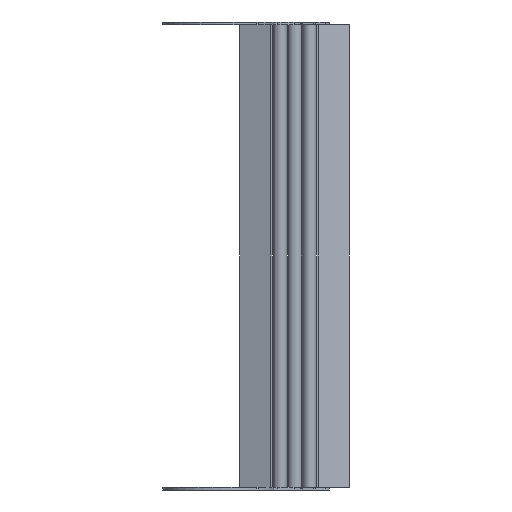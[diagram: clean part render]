
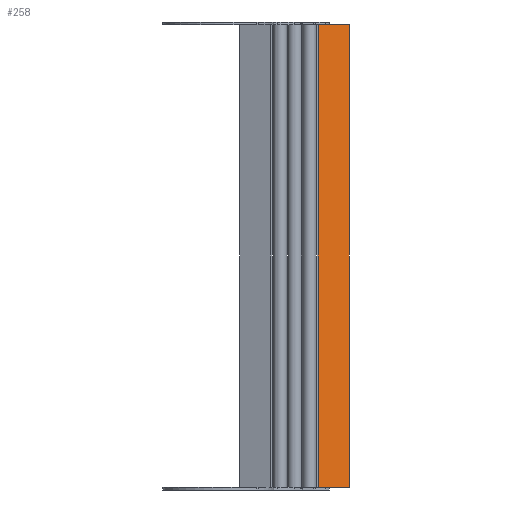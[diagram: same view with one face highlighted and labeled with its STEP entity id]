
A CAD part, front view. The second image highlights one B-rep face of the part: STEP entity #258.
In plain terms, the highlighted planar face has unit normal (0.342, -0.94, 0).
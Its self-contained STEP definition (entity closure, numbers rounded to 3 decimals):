
#194 = DIRECTION ( 'NONE',  ( 0., 0., 1. ) ) ;
#214 = CARTESIAN_POINT ( 'NONE',  ( 108.255, 61.65, -500. ) ) ;
#258 = ADVANCED_FACE ( 'NONE', ( #802 ), #4195, .F. ) ;
#279 = CARTESIAN_POINT ( 'NONE',  ( 108.255, 61.65, -500. ) ) ;
#401 = VERTEX_POINT ( 'NONE', #1510 ) ;
#627 = EDGE_CURVE ( 'NONE', #1920, #4659, #2587, .T. ) ;
#637 = VERTEX_POINT ( 'NONE', #4230 ) ;
#666 = ORIENTED_EDGE ( 'NONE', *, *, #2213, .T. ) ;
#675 = VECTOR ( 'NONE', #5586, 1000. ) ;
#802 = FACE_OUTER_BOUND ( 'NONE', #4464, .T. ) ;
#943 = VECTOR ( 'NONE', #194, 1000. ) ;
#1087 = LINE ( 'NONE', #2866, #3175 ) ;
#1490 = LINE ( 'NONE', #2370, #943 ) ;
#1510 = CARTESIAN_POINT ( 'NONE',  ( 114.569, 63.948, 0. ) ) ;
#1843 = DIRECTION ( 'NONE',  ( 0., 0., 1. ) ) ;
#1894 = DIRECTION ( 'NONE',  ( -0.94, -0.342, 0. ) ) ;
#1920 = VERTEX_POINT ( 'NONE', #5636 ) ;
#1966 = ORIENTED_EDGE ( 'NONE', *, *, #3036, .F. ) ;
#1976 = CARTESIAN_POINT ( 'NONE',  ( 108.255, 61.65, -500. ) ) ;
#2088 = CARTESIAN_POINT ( 'NONE',  ( 108.255, 61.65, -500. ) ) ;
#2191 = ORIENTED_EDGE ( 'NONE', *, *, #627, .F. ) ;
#2213 = EDGE_CURVE ( 'NONE', #2910, #401, #5341, .T. ) ;
#2370 = CARTESIAN_POINT ( 'NONE',  ( 141.6, 73.787, -500. ) ) ;
#2408 = VERTEX_POINT ( 'NONE', #1976 ) ;
#2531 = LINE ( 'NONE', #2707, #3134 ) ;
#2587 = LINE ( 'NONE', #279, #675 ) ;
#2695 = ORIENTED_EDGE ( 'NONE', *, *, #5551, .T. ) ;
#2707 = CARTESIAN_POINT ( 'NONE',  ( 108.255, 61.65, -500. ) ) ;
#2866 = CARTESIAN_POINT ( 'NONE',  ( 108.255, 61.65, 0. ) ) ;
#2910 = VERTEX_POINT ( 'NONE', #5185 ) ;
#3036 = EDGE_CURVE ( 'NONE', #2408, #637, #2531, .T. ) ;
#3134 = VECTOR ( 'NONE', #1843, 1000. ) ;
#3175 = VECTOR ( 'NONE', #4635, 1000. ) ;
#3272 = VECTOR ( 'NONE', #1894, 1000. ) ;
#3291 = CARTESIAN_POINT ( 'NONE',  ( 114.569, 63.948, -500. ) ) ;
#3656 = VECTOR ( 'NONE', #4124, 1000. ) ;
#4124 = DIRECTION ( 'NONE',  ( -0.94, -0.342, 0. ) ) ;
#4132 = ORIENTED_EDGE ( 'NONE', *, *, #5441, .T. ) ;
#4195 = PLANE ( 'NONE',  #4946 ) ;
#4230 = CARTESIAN_POINT ( 'NONE',  ( 108.255, 61.65, 0. ) ) ;
#4331 = ORIENTED_EDGE ( 'NONE', *, *, #5418, .F. ) ;
#4464 = EDGE_LOOP ( 'NONE', ( #666, #2695, #1966, #4331, #2191, #4132 ) ) ;
#4493 = CARTESIAN_POINT ( 'NONE',  ( 108.255, 61.65, 0. ) ) ;
#4635 = DIRECTION ( 'NONE',  ( -0.94, -0.342, 0. ) ) ;
#4636 = DIRECTION ( 'NONE',  ( -0.342, 0.94, 0. ) ) ;
#4659 = VERTEX_POINT ( 'NONE', #3291 ) ;
#4946 = AXIS2_PLACEMENT_3D ( 'NONE', #2088, #4636, #5573 ) ;
#5185 = CARTESIAN_POINT ( 'NONE',  ( 141.6, 73.787, 0. ) ) ;
#5341 = LINE ( 'NONE', #4493, #3272 ) ;
#5418 = EDGE_CURVE ( 'NONE', #4659, #2408, #5514, .T. ) ;
#5441 = EDGE_CURVE ( 'NONE', #1920, #2910, #1490, .T. ) ;
#5514 = LINE ( 'NONE', #214, #3656 ) ;
#5551 = EDGE_CURVE ( 'NONE', #401, #637, #1087, .T. ) ;
#5573 = DIRECTION ( 'NONE',  ( -0.94, -0.342, 0. ) ) ;
#5586 = DIRECTION ( 'NONE',  ( -0.94, -0.342, 0. ) ) ;
#5636 = CARTESIAN_POINT ( 'NONE',  ( 141.6, 73.787, -500. ) ) ;
